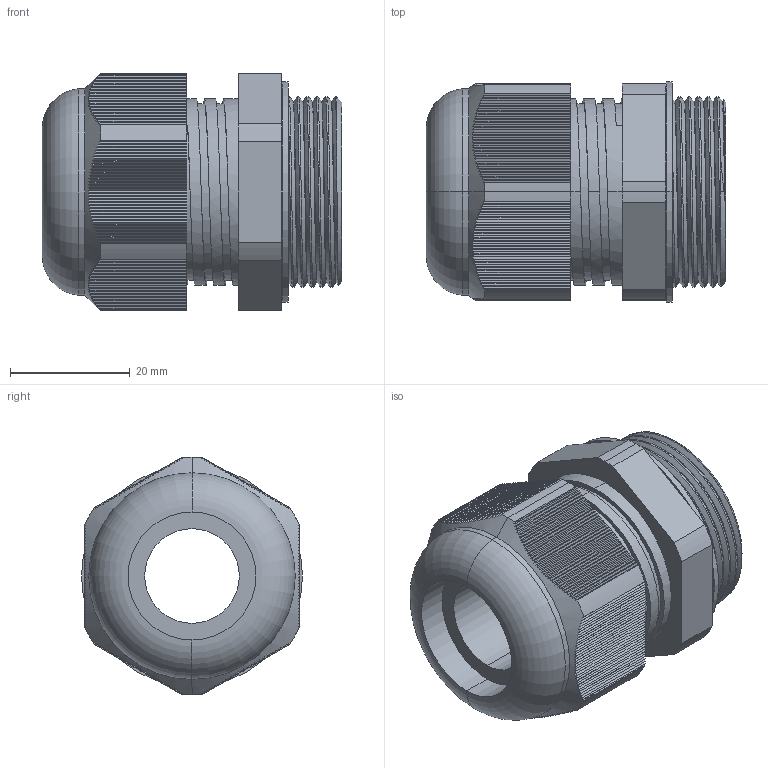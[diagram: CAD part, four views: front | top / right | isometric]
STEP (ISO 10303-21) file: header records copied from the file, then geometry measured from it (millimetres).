
FILE_DESCRIPTION (( 'STEP AP203' ), '1' );
FILE_NAME ('PCGU-M32.STEP', '2016-11-11T19:21:16', ( 'Mencom User' ), ( 'Hewlett-Packard Company' ), 'SwSTEP 2.0', 'SolidWorks 2016', '' );
FILE_SCHEMA (( 'CONFIG_CONTROL_DESIGN' ));
Length unit declared in the file: inch
Products named in the file (1): PCGU-M32
Bounding box: 49.91 x 36.83 x 39.67 mm (x, y, z)
Volume: 26466.4 mm3; surface area: 13230.9 mm2
Topology: 2 solids, 2 shells, 492 faces, 1440 edges, 956 vertices
Faces by surface type: plane 425, cylinder 49, bspline 9, cone 7, torus 2
Entity records: 18151 total; most frequent: CARTESIAN_POINT 5952, ORIENTED_EDGE 2880, DIRECTION 2013, EDGE_CURVE 1440, VERTEX_POINT 956, LINE 903, VECTOR 903, AXIS2_PLACEMENT_3D 555
